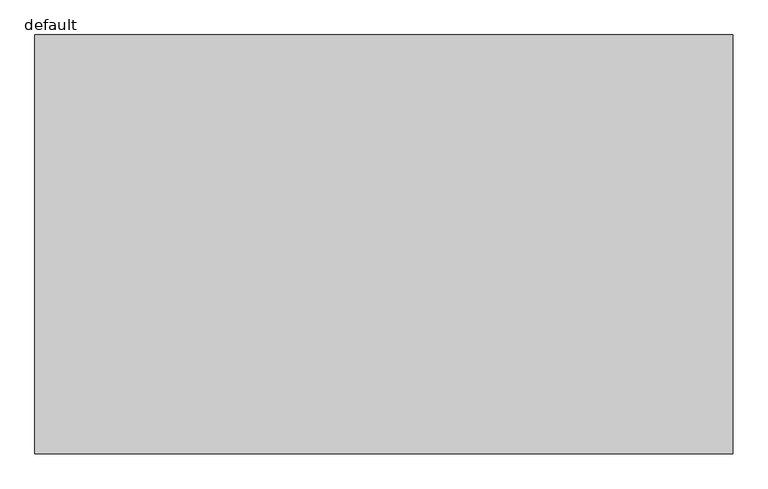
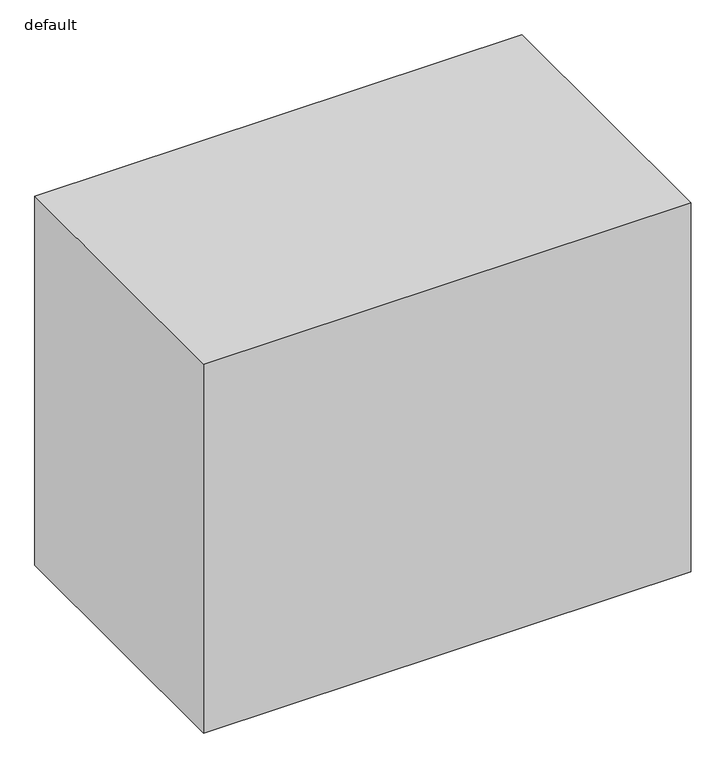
"""IFC4 building model written with IfcOpenShell, lengths in millimetres: furniture geometry, Fu_кухонный напольный модуль_LEG : default."""

import ifcopenshell
import ifcopenshell.guid

model = None  # the IFC model being written
_history = None  # IfcOwnerHistory: only IFC2X3 demands one
_inside = {}  # id of a spatial element -> (the spatial element, [elements in it])
_under = {}  # id of a project, library or spatial element -> (it, [spatial elements below it])
_declared = {}  # id of a project -> (the project, [libraries it declares])
_typed = {}  # id of a type object -> (the type object, [elements of that type])
_made_of = {}  # id of a material, layer set ... -> (it, [elements and type objects made of it])


def new_model(schema):
    """Start an empty IFC model of exactly this schema.

    Asked for "IFC4X3", IfcOpenShell would pick the latest addendum, in which some entities
    have other attributes; the version numbers below select the first issue.
    IFC2X3 requires an IfcOwnerHistory on every rooted entity: one is made here for all.
    """
    global model, _history
    if schema == "IFC4X3":
        model = ifcopenshell.file(schema_version=(4, 3, 0, 0))
    else:
        model = ifcopenshell.file(schema=schema)
    _inside.clear()
    _under.clear()
    _declared.clear()
    _typed.clear()
    _made_of.clear()
    _history = None
    if model.schema == "IFC2X3":
        org = make("IfcOrganization", Name="unknown")
        user = make(
            "IfcPersonAndOrganization",
            ThePerson=make("IfcPerson", FamilyName="unknown"),
            TheOrganization=org,
        )
        app = make(
            "IfcApplication",
            ApplicationDeveloper=org,
            Version="unknown",
            ApplicationFullName="unknown",
            ApplicationIdentifier="unknown",
        )
        _history = make(
            "IfcOwnerHistory",
            OwningUser=user,
            OwningApplication=app,
            ChangeAction="ADDED",
            CreationDate=0,
        )
    return model


def make(cls, **values):
    """One entity of the class cls with the attributes given. An attribute that is None is left unset."""
    return model.create_entity(
        cls, **{name: value for name, value in values.items() if value is not None}
    )


def rooted(cls, **values):
    """An entity with a GlobalId (a new one), such as an element, a storey or a relation."""
    return make(cls, GlobalId=ifcopenshell.guid.new(), OwnerHistory=_history, **values)


def si_unit(unit_type, name, prefix=None):
    """IfcSIUnit, for example si_unit("LENGTHUNIT", "METRE", prefix="MILLI")."""
    return make("IfcSIUnit", UnitType=unit_type, Prefix=prefix, Name=name)


def assignment(units):
    """IfcUnitAssignment: the units of a project."""
    return None if units is None else make("IfcUnitAssignment", Units=units)


def point(xyz):
    """IfcCartesianPoint."""
    return None if xyz is None else make("IfcCartesianPoint", Coordinates=xyz)


def direction(xyz):
    """IfcDirection."""
    return None if xyz is None else make("IfcDirection", DirectionRatios=xyz)


def frame(location, z_axis=None, x_axis=None):
    """IfcAxis2Placement3D, a coordinate frame: its origin and axes. An axis left out is left unset."""
    return make(
        "IfcAxis2Placement3D",
        Location=point(location),
        Axis=direction(z_axis),
        RefDirection=direction(x_axis),
    )


def origin():
    """The frame at (0, 0, 0) with its axes left unset."""
    return frame((0.0, 0.0, 0.0))


def origin_with_axes():
    """The frame at (0, 0, 0) with the z axis (0, 0, 1) and the x axis (1, 0, 0) written out."""
    return frame((0.0, 0.0, 0.0), z_axis=(0.0, 0.0, 1.0), x_axis=(1.0, 0.0, 0.0))


def place(relative_to, where):
    """IfcLocalPlacement: puts the frame where relative to a parent placement (None: the world)."""
    return make(
        "IfcLocalPlacement", PlacementRelTo=relative_to, RelativePlacement=where
    )


def context(
    kind, dimensions, precision=None, world=None, true_north=None, identifier=None
):
    """IfcGeometricRepresentationContext, for example the 3D "Model" context."""
    return make(
        "IfcGeometricRepresentationContext",
        ContextIdentifier=identifier,
        ContextType=kind,
        CoordinateSpaceDimension=dimensions,
        Precision=precision,
        WorldCoordinateSystem=world,
        TrueNorth=true_north,
    )


def project(units=None, contexts=None):
    """IfcProject with its units and contexts."""
    return rooted(
        "IfcProject",
        Name="project",
        RepresentationContexts=contexts,
        UnitsInContext=assignment(units),
    )


def spatial(cls, under=None, at=None, **own):
    """A site, building, storey or space (cls), placed at a placement, below another one or the project."""
    s = rooted(cls, ObjectPlacement=at, **own)
    if under is not None:
        _under.setdefault(under.id(), (under, []))[1].append(s)
    return s


def polyline(points):
    """IfcPolyline through the points."""
    return make("IfcPolyline", Points=[point(p) for p in points])


def outline(outer, holes=None, kind="AREA"):
    """IfcArbitraryClosedProfileDef: a profile drawn as a closed curve; with holes, ...WithVoids."""
    if holes is None:
        return make("IfcArbitraryClosedProfileDef", ProfileType=kind, OuterCurve=outer)
    return make(
        "IfcArbitraryProfileDefWithVoids",
        ProfileType=kind,
        OuterCurve=outer,
        InnerCurves=holes,
    )


def extrude(swept, where, along, depth):
    """IfcExtrudedAreaSolid: the profile swept, set in the frame where, extruded along a direction by depth."""
    return make(
        "IfcExtrudedAreaSolid",
        SweptArea=swept,
        Position=where,
        ExtrudedDirection=direction(along),
        Depth=depth,
    )


def shape(context_of_items, identifier, shape_type, items):
    """IfcShapeRepresentation: the items that make up one representation, for example the "Body"."""
    return make(
        "IfcShapeRepresentation",
        ContextOfItems=context_of_items,
        RepresentationIdentifier=identifier,
        RepresentationType=shape_type,
        Items=items,
    )


def source(mapping_origin, context_of_items, identifier, shape_type, items):
    """IfcRepresentationMap: a shape defined once, which mapped items show again and again."""
    return make(
        "IfcRepresentationMap",
        MappingOrigin=mapping_origin,
        MappedRepresentation=shape(context_of_items, identifier, shape_type, items),
    )


def transform(
    local_origin,
    x_axis=None,
    y_axis=None,
    z_axis=None,
    scale=None,
    scale2=None,
    scale3=None,
    uniform=True,
):
    """IfcCartesianTransformationOperator3D, or its non-uniform kind. x_axis, y_axis, z_axis: its Axis1, 2, 3."""
    if uniform:
        return make(
            "IfcCartesianTransformationOperator3D",
            Axis1=direction(x_axis),
            Axis2=direction(y_axis),
            LocalOrigin=point(local_origin),
            Scale=scale,
            Axis3=direction(z_axis),
        )
    return make(
        "IfcCartesianTransformationOperator3DnonUniform",
        Axis1=direction(x_axis),
        Axis2=direction(y_axis),
        LocalOrigin=point(local_origin),
        Scale=scale,
        Axis3=direction(z_axis),
        Scale2=scale2,
        Scale3=scale3,
    )


def mapped(mapping_source, mapping_target):
    """IfcMappedItem: shows the shape of a source again, moved by a transform."""
    return make(
        "IfcMappedItem", MappingSource=mapping_source, MappingTarget=mapping_target
    )


def made_of(thing, what):
    """Note that an element or type object is made of a material, layer set ...; save() writes the relation."""
    if what is not None:
        _made_of.setdefault(what.id(), (what, []))[1].append(thing)
    return thing


def element(
    cls,
    number,
    at=None,
    inside=None,
    cuts=None,
    type_object=None,
    material=None,
    context=None,
    identifier="Body",
    shape_type=None,
    held_by="IfcProductDefinitionShape",
    body=None,
    shapes=None,
    **own,
):
    """One element of the class cls, such as IfcWall. Its Tag is "e" and its number.

    at: its placement. inside: the storey or other place that contains it. cuts: it is an
    opening in that element (IfcRelVoidsElement). A single representation is given by context,
    identifier, shape_type and body (its items); several are given by shapes. held_by: the class
    of the entity that holds the representations. save() writes the other relations.
    """
    e = rooted(cls, Tag="e%d" % number, ObjectPlacement=at, **own)
    if body is not None:
        shapes = [shape(context, identifier, shape_type, body)]
    if shapes is not None:
        e.Representation = make(held_by, Representations=shapes)
    if inside is not None:
        _inside.setdefault(inside.id(), (inside, []))[1].append(e)
    if cuts is not None:
        rooted(
            "IfcRelVoidsElement", RelatingBuildingElement=cuts, RelatedOpeningElement=e
        )
    if type_object is not None:
        _typed.setdefault(type_object.id(), (type_object, []))[1].append(e)
    return made_of(e, material)


def aggregate(whole, parts):
    """IfcRelAggregates: a whole, such as a stair, and the parts it consists of."""
    return rooted("IfcRelAggregates", RelatingObject=whole, RelatedObjects=parts)


def save(model, path):
    """Write the relations noted so far, then the file.

    IfcRelAggregates (storeys below a building ...), IfcRelContainedInSpatialStructure (elements
    in a storey), IfcRelDefinesByType, IfcRelAssociatesMaterial and IfcRelDeclares: one each for
    every whole, place, type object, material and project.
    """
    for whole, parts in _under.values():
        aggregate(whole, parts)
    for where, things in _inside.values():
        rooted(
            "IfcRelContainedInSpatialStructure",
            RelatedElements=things,
            RelatingStructure=where,
        )
    for kind, things in _typed.values():
        rooted("IfcRelDefinesByType", RelatedObjects=things, RelatingType=kind)
    for what, things in _made_of.values():
        rooted("IfcRelAssociatesMaterial", RelatedObjects=things, RelatingMaterial=what)
    for by, libraries in _declared.values():
        rooted("IfcRelDeclares", RelatingContext=by, RelatedDefinitions=libraries)
    model.write(path)


def default_350fb545(model_context):
    return source(origin(), model_context, "Body", "SweptSolid", [
        extrude(outline(polyline([(1000.0, 0.0), (0.0, 0.0), (0.0, 600.0), (1000.0, 600.0), (1000.0, 0.0)])), origin_with_axes(), (0.0, 0.0, 1.0), 800.0),
    ])


if __name__ == "__main__":
    model = new_model("IFC4")
    model_context = context("Model", 3, world=origin())
    ifc_project = project(units=[si_unit("LENGTHUNIT", "METRE", prefix="MILLI")], contexts=[model_context])
    site = spatial("IfcSite", under=ifc_project)
    building = spatial("IfcBuilding", under=site)
    placement = place(None, origin())
    default_shape = default_350fb545(model_context)
    element("IfcFurniture", 1, ObjectType="Fu_кухонный напольный модуль_LEG : default", at=placement, inside=building, context=model_context, shape_type="MappedRepresentation", body=[
        mapped(default_shape, transform((0.0, 0.0, 0.0), x_axis=(1.0, 0.0, 0.0), y_axis=(0.0, 1.0, 0.0), z_axis=(0.0, 0.0, 1.0))),
    ])
    save(model, "model.ifc")
